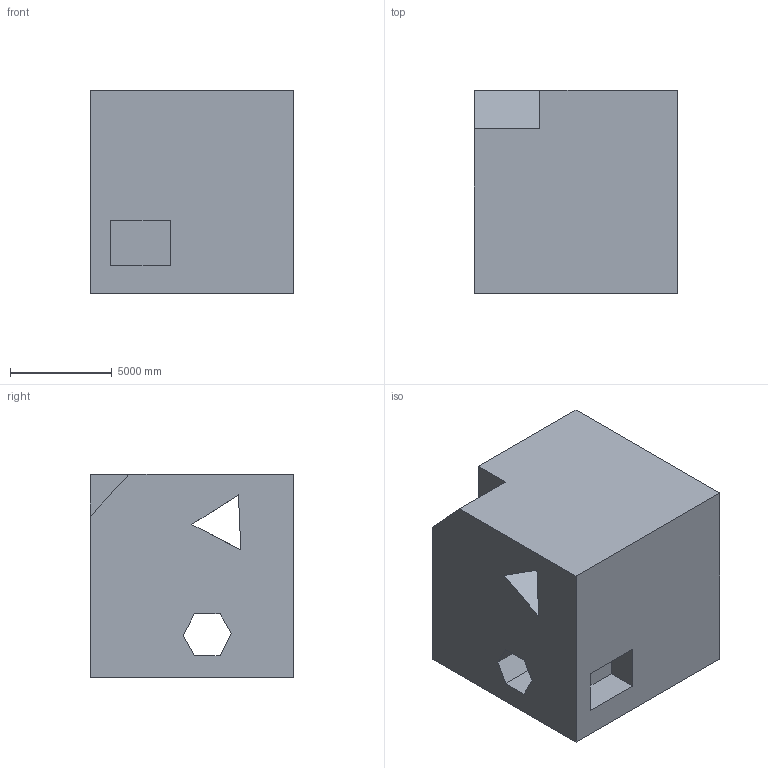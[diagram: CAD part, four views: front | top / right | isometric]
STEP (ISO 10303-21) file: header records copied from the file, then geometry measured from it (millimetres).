
FILE_DESCRIPTION (( 'STEP AP203' ), '1' );
FILE_NAME ('418.STEP', '2022-07-29T11:12:06', ( 'user' ), ( '' ), 'SwSTEP 2.0', 'SolidWorks 2021', '' );
FILE_SCHEMA (( 'CONFIG_CONTROL_DESIGN' ));
Length unit declared in the file: centimetre
Products named in the file (1): 418
Bounding box: 10000 x 10000 x 10000 mm (x, y, z)
Volume: 907994344705.8 mm3; surface area: 770257165.3 mm2
Topology: 1 solids, 1 shells, 33 faces, 93 edges, 62 vertices
Faces by surface type: plane 33
Entity records: 1140 total; most frequent: CARTESIAN_POINT 189, ORIENTED_EDGE 186, DIRECTION 161, VECTOR 93, LINE 93, EDGE_CURVE 93, VERTEX_POINT 62, EDGE_LOOP 41
